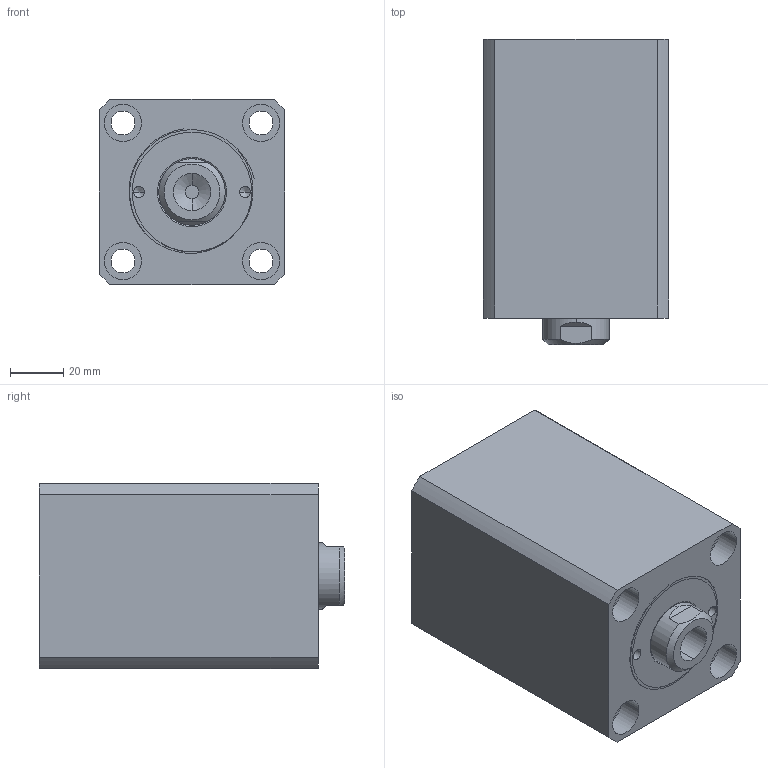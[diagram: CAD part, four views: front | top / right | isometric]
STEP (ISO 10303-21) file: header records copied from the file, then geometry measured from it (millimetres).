
FILE_DESCRIPTION (( 'STEP AP214' ), '1' );
FILE_NAME ('chtb-sd40x50n_asm.STEP', '2018-06-07T07:55:30', ( 'Windows' ), ( 'Microsoft' ), 'SwSTEP 2.0', 'SolidWorks 2015', '' );
FILE_SCHEMA (( 'AUTOMOTIVE_DESIGN' ));
Length unit declared in the file: millimetre
Products named in the file (4): CHTB-SD40QG; CHTB-SD40X50NBT; CHTB-SD40X50NHSG; chtb-sd40x50n_asm
Assembly tree (3 placements, depth 2):
  chtb-sd40x50n_asm
    CHTB-SD40X50NHSG
    CHTB-SD40X50NBT
    CHTB-SD40QG
Bounding box: 70 x 115 x 70 mm (x, y, z)
Volume: 431434.8 mm3; surface area: 88680.6 mm2
Topology: 3 solids, 3 shells, 157 faces, 401 edges, 266 vertices
Faces by surface type: cylinder 80, plane 36, torus 14, bspline 14, cone 13
Entity records: 9977 total; most frequent: CARTESIAN_POINT 6053, ORIENTED_EDGE 790, DIRECTION 768, EDGE_CURVE 395, AXIS2_PLACEMENT_3D 328, VERTEX_POINT 266, EDGE_LOOP 193, CIRCLE 179
